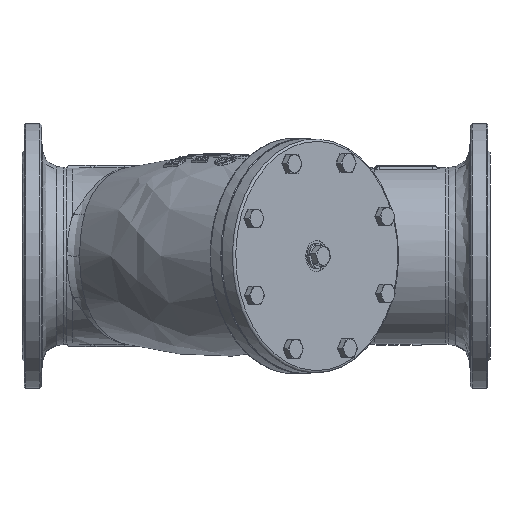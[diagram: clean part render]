
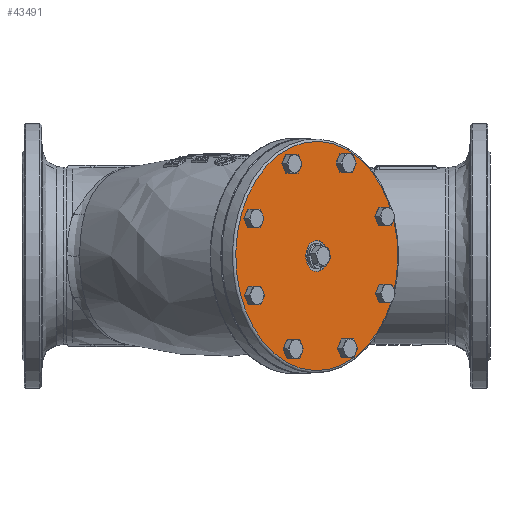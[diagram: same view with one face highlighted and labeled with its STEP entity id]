
A CAD part, front view. The second image highlights one B-rep face of the part: STEP entity #43491.
In plain terms, the highlighted planar face has unit normal (0.707, -0.707, 0).
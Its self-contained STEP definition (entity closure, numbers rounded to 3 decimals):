
#1367 = FACE_BOUND ( 'NONE', #1396, .T. ) ;
#1396 = EDGE_LOOP ( 'NONE', ( #90174 ) ) ;
#2553 = DIRECTION ( 'NONE',  ( 0.264, 0.264, 0.928 ) ) ;
#3134 = EDGE_CURVE ( 'NONE', #26606, #26606, #75813, .T. ) ;
#7146 = ORIENTED_EDGE ( 'NONE', *, *, #3134, .F. ) ;
#7194 = AXIS2_PLACEMENT_3D ( 'NONE', #93828, #18200, #49343 ) ;
#8522 = FACE_BOUND ( 'NONE', #10362, .T. ) ;
#8818 = AXIS2_PLACEMENT_3D ( 'NONE', #57370, #88453, #49678 ) ;
#9032 = FACE_BOUND ( 'NONE', #98055, .T. ) ;
#9466 = EDGE_LOOP ( 'NONE', ( #20259 ) ) ;
#10272 = CARTESIAN_POINT ( 'NONE',  ( 57.613, -138.895, 136.387 ) ) ;
#10362 = EDGE_LOOP ( 'NONE', ( #90497 ) ) ;
#11401 = DIRECTION ( 'NONE',  ( 0.707, -0.707, 0. ) ) ;
#12282 = DIRECTION ( 'NONE',  ( 0., 0., 1. ) ) ;
#12636 = EDGE_CURVE ( 'NONE', #80734, #80734, #82068, .T. ) ;
#13287 = CARTESIAN_POINT ( 'NONE',  ( 103.137, -93.371, -47.941 ) ) ;
#15554 = ORIENTED_EDGE ( 'NONE', *, *, #12636, .F. ) ;
#16330 = CIRCLE ( 'NONE', #71764, 11.245 ) ;
#18200 = DIRECTION ( 'NONE',  ( -0.707, 0.707, 0. ) ) ;
#18593 = AXIS2_PLACEMENT_3D ( 'NONE', #99467, #51979, #97449 ) ;
#18694 = DIRECTION ( 'NONE',  ( 0.707, -0.707, 0. ) ) ;
#19544 = ORIENTED_EDGE ( 'NONE', *, *, #98050, .F. ) ;
#20259 = ORIENTED_EDGE ( 'NONE', *, *, #65228, .F. ) ;
#24857 = FACE_BOUND ( 'NONE', #79774, .T. ) ;
#26606 = VERTEX_POINT ( 'NONE', #89896 ) ;
#27065 = ORIENTED_EDGE ( 'NONE', *, *, #34654, .F. ) ;
#27625 = VERTEX_POINT ( 'NONE', #49098 ) ;
#28667 = CIRCLE ( 'NONE', #49784, 11.245 ) ;
#30728 = ORIENTED_EDGE ( 'NONE', *, *, #60240, .F. ) ;
#32101 = AXIS2_PLACEMENT_3D ( 'NONE', #52185, #81788, #74651 ) ;
#32184 = VERTEX_POINT ( 'NONE', #39373 ) ;
#32206 = CIRCLE ( 'NONE', #74527, 11.245 ) ;
#32253 = DIRECTION ( 'NONE',  ( 0.707, -0.707, 0. ) ) ;
#33424 = AXIS2_PLACEMENT_3D ( 'NONE', #62386, #32253, #54737 ) ;
#33565 = FACE_OUTER_BOUND ( 'NONE', #87816, .T. ) ;
#34654 = EDGE_CURVE ( 'NONE', #27625, #27625, #32206, .T. ) ;
#36232 = EDGE_CURVE ( 'NONE', #80224, #80224, #90193, .T. ) ;
#36852 = CARTESIAN_POINT ( 'NONE',  ( -64.747, -261.255, -39.159 ) ) ;
#39373 = CARTESIAN_POINT ( 'NONE',  ( 13.558, -182.95, -18.556 ) ) ;
#39667 = DIRECTION ( 'NONE',  ( 0.707, -0.707, 0. ) ) ;
#39880 = CIRCLE ( 'NONE', #18593, 20. ) ;
#40734 = CARTESIAN_POINT ( 'NONE',  ( -15.065, -211.573, -119.222 ) ) ;
#40735 = FACE_BOUND ( 'NONE', #89670, .T. ) ;
#40935 = ORIENTED_EDGE ( 'NONE', *, *, #57695, .F. ) ;
#40949 = EDGE_LOOP ( 'NONE', ( #27065 ) ) ;
#41669 = CARTESIAN_POINT ( 'NONE',  ( -64.747, -261.255, -50.404 ) ) ;
#41984 = EDGE_CURVE ( 'NONE', #90922, #90922, #64135, .T. ) ;
#43153 = CIRCLE ( 'NONE', #8818, 11.245 ) ;
#43491 = ADVANCED_FACE ( 'NONE', ( #8522, #40735, #1367, #56535, #78989, #9032, #94809, #48859, #33565, #24857 ), #88123, .F. ) ;
#44479 = VERTEX_POINT ( 'NONE', #84765 ) ;
#48000 = CARTESIAN_POINT ( 'NONE',  ( -16.807, -213.315, 129.447 ) ) ;
#48859 = FACE_BOUND ( 'NONE', #40949, .T. ) ;
#49098 = CARTESIAN_POINT ( 'NONE',  ( 103.137, -93.371, -36.696 ) ) ;
#49343 = DIRECTION ( 'NONE',  ( 0.264, 0.264, 0.928 ) ) ;
#49678 = DIRECTION ( 'NONE',  ( 0., 0., 1. ) ) ;
#49784 = AXIS2_PLACEMENT_3D ( 'NONE', #94183, #92670, #76326 ) ;
#51631 = CARTESIAN_POINT ( 'NONE',  ( 52.733, -143.775, 130.467 ) ) ;
#51979 = DIRECTION ( 'NONE',  ( 0.707, -0.707, 0. ) ) ;
#52185 = CARTESIAN_POINT ( 'NONE',  ( 54.475, -142.033, -118.202 ) ) ;
#53634 = VERTEX_POINT ( 'NONE', #51631 ) ;
#54737 = DIRECTION ( 'NONE',  ( 0., 0., 1. ) ) ;
#55657 = VERTEX_POINT ( 'NONE', #48000 ) ;
#56535 = FACE_BOUND ( 'NONE', #74040, .T. ) ;
#57370 = CARTESIAN_POINT ( 'NONE',  ( 52.733, -143.775, 119.222 ) ) ;
#57695 = EDGE_CURVE ( 'NONE', #53634, #53634, #43153, .T. ) ;
#57786 = CARTESIAN_POINT ( 'NONE',  ( -15.065, -211.573, -107.977 ) ) ;
#59304 = AXIS2_PLACEMENT_3D ( 'NONE', #40734, #18694, #80986 ) ;
#59809 = VERTEX_POINT ( 'NONE', #76112 ) ;
#60240 = EDGE_CURVE ( 'NONE', #44479, #44479, #28667, .T. ) ;
#62386 = CARTESIAN_POINT ( 'NONE',  ( 102.415, -94.093, 50.404 ) ) ;
#64135 = CIRCLE ( 'NONE', #96696, 11.245 ) ;
#65228 = EDGE_CURVE ( 'NONE', #59809, #59809, #76101, .T. ) ;
#67421 = DIRECTION ( 'NONE',  ( 0.707, -0.707, 0. ) ) ;
#67517 = ORIENTED_EDGE ( 'NONE', *, *, #36232, .T. ) ;
#71764 = AXIS2_PLACEMENT_3D ( 'NONE', #80842, #11401, #72690 ) ;
#72529 = DIRECTION ( 'NONE',  ( 0.707, -0.707, 0. ) ) ;
#72690 = DIRECTION ( 'NONE',  ( 0., 0., 1. ) ) ;
#74040 = EDGE_LOOP ( 'NONE', ( #40935 ) ) ;
#74527 = AXIS2_PLACEMENT_3D ( 'NONE', #13287, #67421, #12282 ) ;
#74651 = DIRECTION ( 'NONE',  ( 0., 0., 1. ) ) ;
#75813 = CIRCLE ( 'NONE', #33424, 11.245 ) ;
#76101 = CIRCLE ( 'NONE', #32101, 11.245 ) ;
#76112 = CARTESIAN_POINT ( 'NONE',  ( 54.475, -142.033, -106.957 ) ) ;
#76326 = DIRECTION ( 'NONE',  ( 0., 0., 1. ) ) ;
#77176 = AXIS2_PLACEMENT_3D ( 'NONE', #95510, #72529, #2553 ) ;
#78417 = DIRECTION ( 'NONE',  ( 0., 0., 1. ) ) ;
#78989 = FACE_BOUND ( 'NONE', #92008, .T. ) ;
#79774 = EDGE_LOOP ( 'NONE', ( #19544 ) ) ;
#80224 = VERTEX_POINT ( 'NONE', #10272 ) ;
#80734 = VERTEX_POINT ( 'NONE', #57786 ) ;
#80842 = CARTESIAN_POINT ( 'NONE',  ( -16.807, -213.315, 118.202 ) ) ;
#80986 = DIRECTION ( 'NONE',  ( 0., 0., 1. ) ) ;
#81788 = DIRECTION ( 'NONE',  ( 0.707, -0.707, 0. ) ) ;
#82068 = CIRCLE ( 'NONE', #59304, 11.245 ) ;
#84361 = EDGE_CURVE ( 'NONE', #55657, #55657, #16330, .T. ) ;
#84765 = CARTESIAN_POINT ( 'NONE',  ( -65.469, -261.977, 59.186 ) ) ;
#87816 = EDGE_LOOP ( 'NONE', ( #67517 ) ) ;
#88123 = PLANE ( 'NONE',  #7194 ) ;
#88453 = DIRECTION ( 'NONE',  ( 0.707, -0.707, 0. ) ) ;
#89670 = EDGE_LOOP ( 'NONE', ( #30728 ) ) ;
#89896 = CARTESIAN_POINT ( 'NONE',  ( 102.415, -94.093, 61.649 ) ) ;
#90174 = ORIENTED_EDGE ( 'NONE', *, *, #84361, .F. ) ;
#90193 = CIRCLE ( 'NONE', #77176, 147. ) ;
#90497 = ORIENTED_EDGE ( 'NONE', *, *, #41984, .F. ) ;
#90922 = VERTEX_POINT ( 'NONE', #36852 ) ;
#92008 = EDGE_LOOP ( 'NONE', ( #7146 ) ) ;
#92670 = DIRECTION ( 'NONE',  ( 0.707, -0.707, 0. ) ) ;
#93828 = CARTESIAN_POINT ( 'NONE',  ( 18.834, -177.674, 0. ) ) ;
#94183 = CARTESIAN_POINT ( 'NONE',  ( -65.469, -261.977, 47.941 ) ) ;
#94809 = FACE_BOUND ( 'NONE', #9466, .T. ) ;
#95510 = CARTESIAN_POINT ( 'NONE',  ( 18.834, -177.674, 0. ) ) ;
#96696 = AXIS2_PLACEMENT_3D ( 'NONE', #41669, #39667, #78417 ) ;
#97449 = DIRECTION ( 'NONE',  ( -0.264, -0.264, -0.928 ) ) ;
#98050 = EDGE_CURVE ( 'NONE', #32184, #32184, #39880, .T. ) ;
#98055 = EDGE_LOOP ( 'NONE', ( #15554 ) ) ;
#99467 = CARTESIAN_POINT ( 'NONE',  ( 18.834, -177.674, 0. ) ) ;
